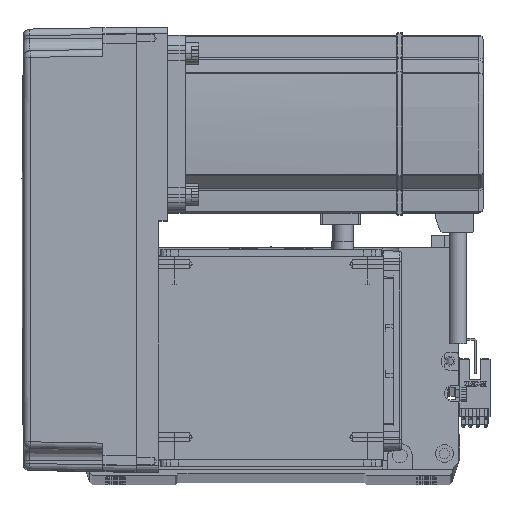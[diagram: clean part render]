
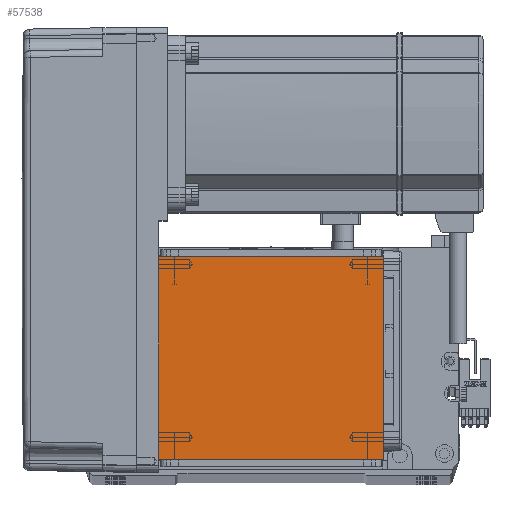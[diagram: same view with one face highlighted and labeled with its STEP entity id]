
A CAD part, top view. The second image highlights one B-rep face of the part: STEP entity #57538.
In plain terms, the highlighted planar face has unit normal (0, 0, 1).
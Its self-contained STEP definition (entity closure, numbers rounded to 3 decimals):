
#869 = AXIS2_PLACEMENT_3D ( 'NONE', #25807, #15291, #10998 ) ;
#1721 = CARTESIAN_POINT ( 'NONE',  ( 50.5, 111.5, 115. ) ) ;
#1839 = ORIENTED_EDGE ( 'NONE', *, *, #10490, .F. ) ;
#3007 = LINE ( 'NONE', #11121, #53654 ) ;
#10490 = EDGE_CURVE ( 'NONE', #29506, #31947, #3007, .T. ) ;
#10998 = DIRECTION ( 'NONE',  ( 1., 0., 0. ) ) ;
#11121 = CARTESIAN_POINT ( 'NONE',  ( -70.004, 111.5, 115. ) ) ;
#12554 = FACE_OUTER_BOUND ( 'NONE', #16588, .T. ) ;
#14301 = DIRECTION ( 'NONE',  ( 0., 1., 0. ) ) ;
#15288 = LINE ( 'NONE', #17983, #56705 ) ;
#15291 = DIRECTION ( 'NONE',  ( 0., 0., 1. ) ) ;
#16561 = CARTESIAN_POINT ( 'NONE',  ( -50.5, 20., 115. ) ) ;
#16588 = EDGE_LOOP ( 'NONE', ( #1839, #58823, #25202, #43071 ) ) ;
#17983 = CARTESIAN_POINT ( 'NONE',  ( -70.004, 20., 115. ) ) ;
#18568 = EDGE_CURVE ( 'NONE', #43704, #49488, #15288, .T. ) ;
#21580 = VECTOR ( 'NONE', #26122, 1000. ) ;
#22909 = DIRECTION ( 'NONE',  ( -1., 0., 0. ) ) ;
#25202 = ORIENTED_EDGE ( 'NONE', *, *, #18568, .F. ) ;
#25714 = DIRECTION ( 'NONE',  ( 1., 0., 0. ) ) ;
#25807 = CARTESIAN_POINT ( 'NONE',  ( 0., 0., 115. ) ) ;
#26122 = DIRECTION ( 'NONE',  ( 0., -1., 0. ) ) ;
#29506 = VERTEX_POINT ( 'NONE', #37397 ) ;
#31947 = VERTEX_POINT ( 'NONE', #1721 ) ;
#32265 = CARTESIAN_POINT ( 'NONE',  ( 50.5, 20., 115. ) ) ;
#37397 = CARTESIAN_POINT ( 'NONE',  ( -50.5, 111.5, 115. ) ) ;
#37671 = VECTOR ( 'NONE', #14301, 1000. ) ;
#40460 = PLANE ( 'NONE',  #869 ) ;
#41105 = EDGE_CURVE ( 'NONE', #29506, #49488, #60684, .T. ) ;
#43071 = ORIENTED_EDGE ( 'NONE', *, *, #46513, .T. ) ;
#43704 = VERTEX_POINT ( 'NONE', #32265 ) ;
#46513 = EDGE_CURVE ( 'NONE', #43704, #31947, #55304, .T. ) ;
#48189 = CARTESIAN_POINT ( 'NONE',  ( 50.5, 122., 115. ) ) ;
#49488 = VERTEX_POINT ( 'NONE', #16561 ) ;
#53654 = VECTOR ( 'NONE', #25714, 1000. ) ;
#54639 = CARTESIAN_POINT ( 'NONE',  ( -50.5, 122., 115. ) ) ;
#55304 = LINE ( 'NONE', #48189, #37671 ) ;
#56705 = VECTOR ( 'NONE', #22909, 1000. ) ;
#57538 = ADVANCED_FACE ( 'NONE', ( #12554 ), #40460, .T. ) ;
#58823 = ORIENTED_EDGE ( 'NONE', *, *, #41105, .T. ) ;
#60684 = LINE ( 'NONE', #54639, #21580 ) ;
